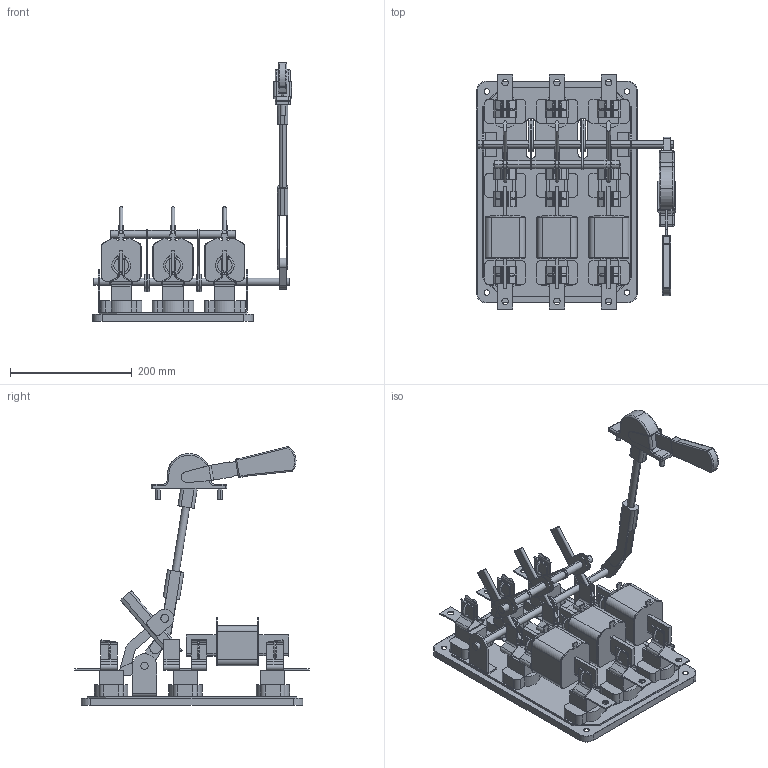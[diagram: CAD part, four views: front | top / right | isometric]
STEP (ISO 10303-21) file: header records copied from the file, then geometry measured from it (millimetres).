
FILE_DESCRIPTION (( 'STEP AP214' ), '1' );
FILE_NAME ('Ðàçúåäèíèòåëü ÐÏÑ-4Ï-400À-ÏÂ400À-ÓÕË3-ÊÝÀÇ.STEP', '2023-05-01T20:26:24', ( '' ), ( '' ), 'SwSTEP 2.0', 'SolidWorks 2018', '' );
FILE_SCHEMA (( 'AUTOMOTIVE_DESIGN' ));
Length unit declared in the file: millimetre
Products named in the file (1): Ðàçúåäèíèòåëü ÐÏÑ-4Ï-400À-ÏÂ400À-ÓÕË3-ÊÝÀÇ
Bounding box: 326.5 x 384 x 424.53 mm (x, y, z)
Volume: 2562910.2 mm3; surface area: 658941 mm2
Topology: 12 solids, 12 shells, 1361 faces, 3765 edges, 2441 vertices
Faces by surface type: plane 781, cylinder 482, torus 84, sphere 14
Entity records: 60654 total; most frequent: CARTESIAN_POINT 9932, ORIENTED_EDGE 7514, DIRECTION 7468, EDGE_CURVE 3757, AXIS2_PLACEMENT_3D 2505, VECTOR 2458, LINE 2458, VERTEX_POINT 2439
